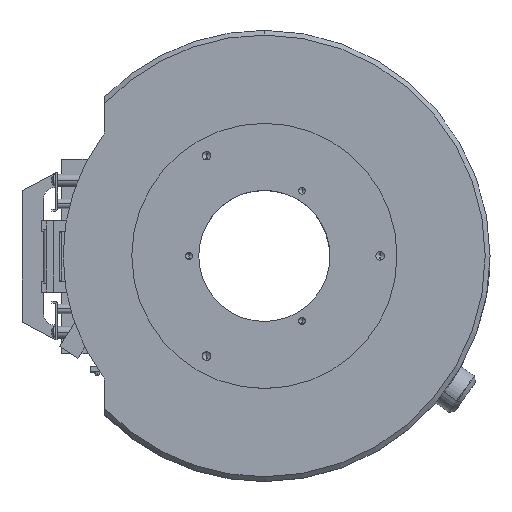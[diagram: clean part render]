
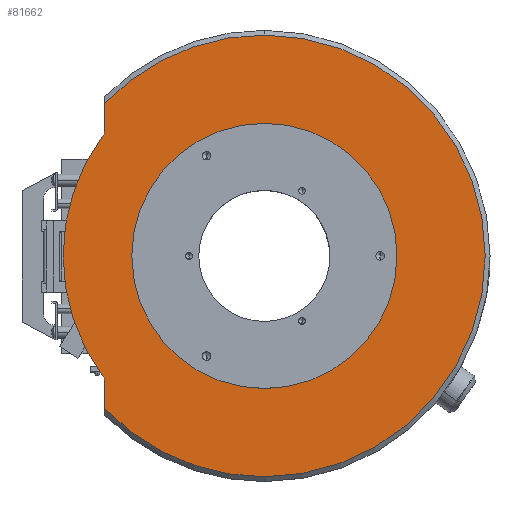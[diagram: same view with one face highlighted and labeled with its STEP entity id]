
A CAD part, top view. The second image highlights one B-rep face of the part: STEP entity #81662.
In plain terms, the highlighted planar face has unit normal (0, 0, 1).
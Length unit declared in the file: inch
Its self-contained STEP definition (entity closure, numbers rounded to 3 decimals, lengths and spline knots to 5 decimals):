
#58419 = CARTESIAN_POINT ( 'NONE',  ( 0., -1.39, 0.6 ) ) ;
#58891 = CARTESIAN_POINT ( 'NONE',  ( 0., 1.39, 0.6 ) ) ;
#58989 = AXIS2_PLACEMENT_3D ( 'NONE', #59032, #59021, #59020 ) ;
#58995 = CIRCLE ( 'NONE', #58989, 1.39 ) ;
#59020 = DIRECTION ( 'NONE',  ( 0., 1., 0. ) ) ;
#59021 = DIRECTION ( 'NONE',  ( 0., 0., 1. ) ) ;
#59032 = CARTESIAN_POINT ( 'NONE',  ( 0., 0., 0.6 ) ) ;
#59584 = DIRECTION ( 'NONE',  ( 0., 0., 1. ) ) ;
#59638 = CIRCLE ( 'NONE', #59667, 1.39 ) ;
#59664 = DIRECTION ( 'NONE',  ( 0., 1., 0. ) ) ;
#59665 = DIRECTION ( 'NONE',  ( 0., 0., 1. ) ) ;
#59666 = CARTESIAN_POINT ( 'NONE',  ( 0., 0., 0.6 ) ) ;
#59667 = AXIS2_PLACEMENT_3D ( 'NONE', #59666, #59665, #59664 ) ;
#60515 = PLANE ( 'NONE',  #60522 ) ;
#60521 = CARTESIAN_POINT ( 'NONE',  ( -1.39, 0., 0.6 ) ) ;
#60522 = AXIS2_PLACEMENT_3D ( 'NONE', #60521, #59584, #60723 ) ;
#60622 = LINE ( 'NONE', #60661, #60694 ) ;
#60660 = DIRECTION ( 'NONE',  ( 0., 1., 0. ) ) ;
#60661 = CARTESIAN_POINT ( 'NONE',  ( -1.675, 0., 0.6 ) ) ;
#60694 = VECTOR ( 'NONE', #60660, 39.37008 ) ;
#60696 = CARTESIAN_POINT ( 'NONE',  ( -1.675, 1.32485, 0.6 ) ) ;
#60723 = DIRECTION ( 'NONE',  ( 0., 1., 0. ) ) ;
#60726 = FACE_BOUND ( 'NONE', #81759, .T. ) ;
#60752 = FACE_OUTER_BOUND ( 'NONE', #81634, .T. ) ;
#60873 = CIRCLE ( 'NONE', #60944, 2.11 ) ;
#60879 = CARTESIAN_POINT ( 'NONE',  ( -1.69933, -1.25075, 0.6 ) ) ;
#60895 = CARTESIAN_POINT ( 'NONE',  ( -1.8, 1.32485, 0.6 ) ) ;
#60896 = CIRCLE ( 'NONE', #60950, 0.125 ) ;
#60897 = CARTESIAN_POINT ( 'NONE',  ( -1.69933, 1.25075, 0.6 ) ) ;
#60898 = CARTESIAN_POINT ( 'NONE',  ( -1.675, -1.598, 0.6 ) ) ;
#60899 = DIRECTION ( 'NONE',  ( 0., 0., -1. ) ) ;
#60921 = DIRECTION ( 'NONE',  ( 0., 1., 0. ) ) ;
#60922 = VECTOR ( 'NONE', #60921, 39.37008 ) ;
#60923 = CARTESIAN_POINT ( 'NONE',  ( -1.675, 0., 0.6 ) ) ;
#60924 = LINE ( 'NONE', #60923, #60922 ) ;
#60927 = DIRECTION ( 'NONE',  ( 0., 1., 0. ) ) ;
#60928 = DIRECTION ( 'NONE',  ( 0., 0., -1. ) ) ;
#60929 = AXIS2_PLACEMENT_3D ( 'NONE', #60947, #60928, #60927 ) ;
#60935 = CIRCLE ( 'NONE', #60929, 0.125 ) ;
#60941 = DIRECTION ( 'NONE',  ( 0., 1., 0. ) ) ;
#60942 = DIRECTION ( 'NONE',  ( 0., 0., -1. ) ) ;
#60943 = CARTESIAN_POINT ( 'NONE',  ( 0., 0., 0.6 ) ) ;
#60944 = AXIS2_PLACEMENT_3D ( 'NONE', #60943, #60942, #60941 ) ;
#60945 = CARTESIAN_POINT ( 'NONE',  ( -1.675, -1.32485, 0.6 ) ) ;
#60947 = CARTESIAN_POINT ( 'NONE',  ( -1.8, -1.32485, 0.6 ) ) ;
#60949 = DIRECTION ( 'NONE',  ( 0., 1., 0. ) ) ;
#60950 = AXIS2_PLACEMENT_3D ( 'NONE', #60895, #60899, #60949 ) ;
#61091 = DIRECTION ( 'NONE',  ( 0., 1., 0. ) ) ;
#61092 = AXIS2_PLACEMENT_3D ( 'NONE', #61100, #61097, #61091 ) ;
#61093 = CIRCLE ( 'NONE', #61092, 2.315 ) ;
#61097 = DIRECTION ( 'NONE',  ( 0., 0., 1. ) ) ;
#61100 = CARTESIAN_POINT ( 'NONE',  ( 0., 0., 0.6 ) ) ;
#80769 = EDGE_CURVE ( 'NONE', #80843, #80846, #58995, .T. ) ;
#80843 = VERTEX_POINT ( 'NONE', #58891 ) ;
#80846 = VERTEX_POINT ( 'NONE', #58419 ) ;
#81111 = EDGE_CURVE ( 'NONE', #80846, #80843, #59638, .T. ) ;
#81634 = EDGE_LOOP ( 'NONE', ( #81696, #81719, #81763, #81643, #81825, #81828, #81647, #81839 ) ) ;
#81643 = ORIENTED_EDGE ( 'NONE', *, *, #81753, .T. ) ;
#81647 = ORIENTED_EDGE ( 'NONE', *, *, #126096, .T. ) ;
#81653 = EDGE_CURVE ( 'NONE', #81656, #92484, #60622, .T. ) ;
#81656 = VERTEX_POINT ( 'NONE', #60696 ) ;
#81662 = ADVANCED_FACE ( 'NONE', ( #60752, #60726 ), #60515, .T. ) ;
#81696 = ORIENTED_EDGE ( 'NONE', *, *, #81653, .F. ) ;
#81702 = ORIENTED_EDGE ( 'NONE', *, *, #81111, .F. ) ;
#81719 = ORIENTED_EDGE ( 'NONE', *, *, #81728, .T. ) ;
#81728 = EDGE_CURVE ( 'NONE', #81656, #81737, #60896, .T. ) ;
#81732 = VERTEX_POINT ( 'NONE', #60898 ) ;
#81737 = VERTEX_POINT ( 'NONE', #60897 ) ;
#81739 = EDGE_CURVE ( 'NONE', #81743, #81737, #60873, .T. ) ;
#81743 = VERTEX_POINT ( 'NONE', #60879 ) ;
#81747 = VERTEX_POINT ( 'NONE', #60945 ) ;
#81753 = EDGE_CURVE ( 'NONE', #81743, #81747, #60935, .T. ) ;
#81757 = EDGE_CURVE ( 'NONE', #81732, #81747, #60924, .T. ) ;
#81759 = EDGE_LOOP ( 'NONE', ( #81830, #81702 ) ) ;
#81763 = ORIENTED_EDGE ( 'NONE', *, *, #81739, .F. ) ;
#81825 = ORIENTED_EDGE ( 'NONE', *, *, #81757, .F. ) ;
#81826 = EDGE_CURVE ( 'NONE', #81732, #126102, #61093, .T. ) ;
#81828 = ORIENTED_EDGE ( 'NONE', *, *, #81826, .T. ) ;
#81830 = ORIENTED_EDGE ( 'NONE', *, *, #80769, .F. ) ;
#81839 = ORIENTED_EDGE ( 'NONE', *, *, #92454, .T. ) ;
#92451 = VERTEX_POINT ( 'NONE', #111901 ) ;
#92454 = EDGE_CURVE ( 'NONE', #92451, #92484, #111894, .T. ) ;
#92484 = VERTEX_POINT ( 'NONE', #111963 ) ;
#111875 = AXIS2_PLACEMENT_3D ( 'NONE', #111940, #111939, #111938 ) ;
#111894 = CIRCLE ( 'NONE', #111875, 2.315 ) ;
#111901 = CARTESIAN_POINT ( 'NONE',  ( 0., 2.315, 0.6 ) ) ;
#111938 = DIRECTION ( 'NONE',  ( 0., 1., 0. ) ) ;
#111939 = DIRECTION ( 'NONE',  ( 0., 0., 1. ) ) ;
#111940 = CARTESIAN_POINT ( 'NONE',  ( 0., 0., 0.6 ) ) ;
#111963 = CARTESIAN_POINT ( 'NONE',  ( -1.675, 1.598, 0.6 ) ) ;
#124820 = DIRECTION ( 'NONE',  ( 0., 0., 1. ) ) ;
#124828 = CARTESIAN_POINT ( 'NONE',  ( 0., 0., 0.6 ) ) ;
#124849 = DIRECTION ( 'NONE',  ( 0., 1., 0. ) ) ;
#124850 = AXIS2_PLACEMENT_3D ( 'NONE', #124828, #124820, #124849 ) ;
#124852 = CARTESIAN_POINT ( 'NONE',  ( 0., -2.315, 0.6 ) ) ;
#124856 = CIRCLE ( 'NONE', #124850, 2.315 ) ;
#126096 = EDGE_CURVE ( 'NONE', #126102, #92451, #124856, .T. ) ;
#126102 = VERTEX_POINT ( 'NONE', #124852 ) ;
